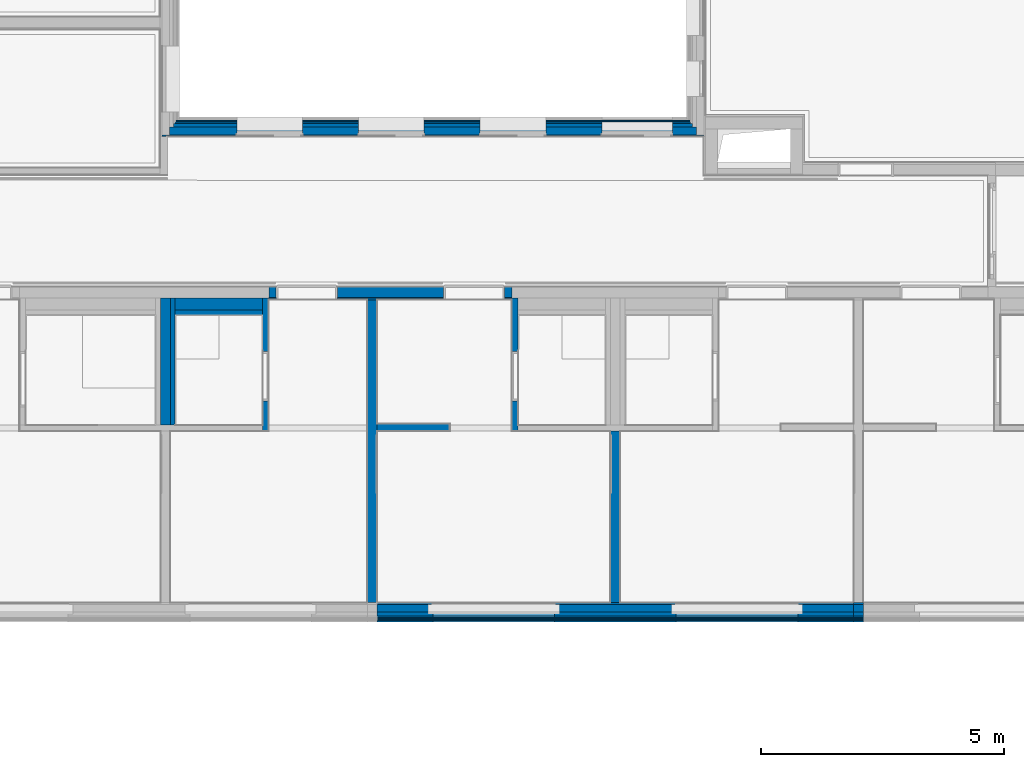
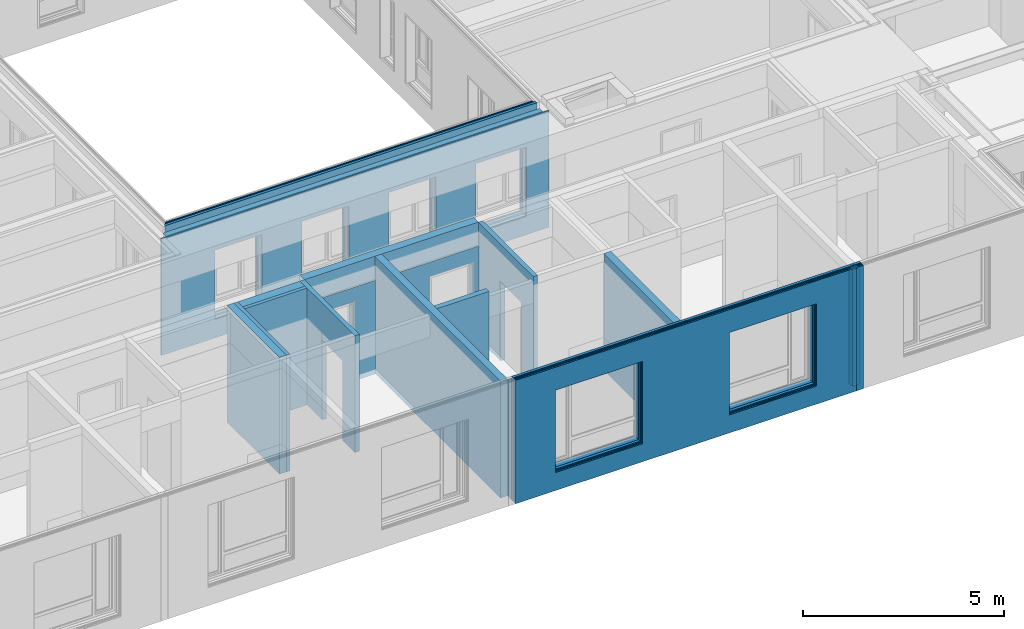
# One storey, part 12 of 222: 30 walls, 40 openings.
"""IFC4 building model written with IfcOpenShell, lengths in metres."""

import ifcopenshell
import ifcopenshell.guid

model = None  # the IFC model being written
_history = None  # IfcOwnerHistory: only IFC2X3 demands one
_inside = {}  # id of a spatial element -> (the spatial element, [elements in it])
_under = {}  # id of a project, library or spatial element -> (it, [spatial elements below it])
_declared = {}  # id of a project -> (the project, [libraries it declares])
_typed = {}  # id of a type object -> (the type object, [elements of that type])
_made_of = {}  # id of a material, layer set ... -> (it, [elements and type objects made of it])


def new_model(schema):
    """Start an empty IFC model of exactly this schema.

    Asked for "IFC4X3", IfcOpenShell would pick the latest addendum, in which some entities
    have other attributes; the version numbers below select the first issue.
    IFC2X3 requires an IfcOwnerHistory on every rooted entity: one is made here for all.
    """
    global model, _history
    if schema == "IFC4X3":
        model = ifcopenshell.file(schema_version=(4, 3, 0, 0))
    else:
        model = ifcopenshell.file(schema=schema)
    _inside.clear()
    _under.clear()
    _declared.clear()
    _typed.clear()
    _made_of.clear()
    _history = None
    if model.schema == "IFC2X3":
        org = make("IfcOrganization", Name="unknown")
        user = make(
            "IfcPersonAndOrganization",
            ThePerson=make("IfcPerson", FamilyName="unknown"),
            TheOrganization=org,
        )
        app = make(
            "IfcApplication",
            ApplicationDeveloper=org,
            Version="unknown",
            ApplicationFullName="unknown",
            ApplicationIdentifier="unknown",
        )
        _history = make(
            "IfcOwnerHistory",
            OwningUser=user,
            OwningApplication=app,
            ChangeAction="ADDED",
            CreationDate=0,
        )
    return model


def make(cls, **values):
    """One entity of the class cls with the attributes given. An attribute that is None is left unset."""
    return model.create_entity(
        cls, **{name: value for name, value in values.items() if value is not None}
    )


def entity(cls, *values):
    """Any entity or typed value of the class cls, its attributes in the order of the schema. None: left unset."""
    e = model.create_entity(cls)
    for i, value in enumerate(values):
        if value is not None:
            e[i] = value
    return e


def rooted(cls, **values):
    """An entity with a GlobalId (a new one), such as an element, a storey or a relation."""
    return make(cls, GlobalId=ifcopenshell.guid.new(), OwnerHistory=_history, **values)


def si_unit(unit_type, name, prefix=None):
    """IfcSIUnit, for example si_unit("LENGTHUNIT", "METRE", prefix="MILLI")."""
    return make("IfcSIUnit", UnitType=unit_type, Prefix=prefix, Name=name)


def converted_unit(unit_type, name, factor, base, dimensions=None, offset=None):
    """IfcConversionBasedUnit, such as the inch: factor (a typed value) times the base unit."""
    return make(
        "IfcConversionBasedUnit"
        if offset is None
        else "IfcConversionBasedUnitWithOffset",
        ConversionOffset=offset,
        Dimensions=None
        if dimensions is None
        else entity("IfcDimensionalExponents", *dimensions),
        UnitType=unit_type,
        Name=name,
        ConversionFactor=make(
            "IfcMeasureWithUnit", ValueComponent=factor, UnitComponent=base
        ),
    )


def derived_unit(unit_type, elements):
    """IfcDerivedUnit: a product of units, each with its exponent."""
    return make(
        "IfcDerivedUnit",
        Elements=[
            make("IfcDerivedUnitElement", Unit=unit, Exponent=power)
            for unit, power in elements
        ],
        UnitType=unit_type,
    )


def assignment(units):
    """IfcUnitAssignment: the units of a project."""
    return None if units is None else make("IfcUnitAssignment", Units=units)


def point(xyz):
    """IfcCartesianPoint."""
    return None if xyz is None else make("IfcCartesianPoint", Coordinates=xyz)


def direction(xyz):
    """IfcDirection."""
    return None if xyz is None else make("IfcDirection", DirectionRatios=xyz)


def frame(location, z_axis=None, x_axis=None):
    """IfcAxis2Placement3D, a coordinate frame: its origin and axes. An axis left out is left unset."""
    return make(
        "IfcAxis2Placement3D",
        Location=point(location),
        Axis=direction(z_axis),
        RefDirection=direction(x_axis),
    )


def frame_2d(location, x_axis=None):
    """IfcAxis2Placement2D, a coordinate frame in the plane: its origin and x axis."""
    return make(
        "IfcAxis2Placement2D", Location=point(location), RefDirection=direction(x_axis)
    )


def origin():
    """The frame at (0, 0, 0) with its axes left unset."""
    return frame((0.0, 0.0, 0.0))


def origin_with_axes():
    """The frame at (0, 0, 0) with the z axis (0, 0, 1) and the x axis (1, 0, 0) written out."""
    return frame((0.0, 0.0, 0.0), z_axis=(0.0, 0.0, 1.0), x_axis=(1.0, 0.0, 0.0))


def place(relative_to, where):
    """IfcLocalPlacement: puts the frame where relative to a parent placement (None: the world)."""
    return make(
        "IfcLocalPlacement", PlacementRelTo=relative_to, RelativePlacement=where
    )


def context(
    kind, dimensions, precision=None, world=None, true_north=None, identifier=None
):
    """IfcGeometricRepresentationContext, for example the 3D "Model" context."""
    return make(
        "IfcGeometricRepresentationContext",
        ContextIdentifier=identifier,
        ContextType=kind,
        CoordinateSpaceDimension=dimensions,
        Precision=precision,
        WorldCoordinateSystem=world,
        TrueNorth=true_north,
    )


def subcontext(parent, identifier, kind, view, scale=None):
    """IfcGeometricRepresentationSubContext, for example "Body" below "Model"."""
    return make(
        "IfcGeometricRepresentationSubContext",
        ContextIdentifier=identifier,
        ContextType=kind,
        ParentContext=parent,
        TargetScale=scale,
        TargetView=view,
    )


def project(units=None, contexts=None):
    """IfcProject with its units and contexts."""
    return rooted(
        "IfcProject",
        Name="project",
        RepresentationContexts=contexts,
        UnitsInContext=assignment(units),
    )


def spatial(cls, under=None, at=None, **own):
    """A site, building, storey or space (cls), placed at a placement, below another one or the project."""
    s = rooted(cls, ObjectPlacement=at, **own)
    if under is not None:
        _under.setdefault(under.id(), (under, []))[1].append(s)
    return s


def polyline(points):
    """IfcPolyline through the points."""
    return make("IfcPolyline", Points=[point(p) for p in points])


def profile(cls, at=None, kind="AREA", **sizes):
    """A parametric profile (cls). Its sizes go by their IFC names, for example OverallWidth=200.0."""
    return make(cls, ProfileType=kind, Position=at, **sizes)


def rectangle(**sizes):
    """IfcRectangleProfileDef."""
    return profile("IfcRectangleProfileDef", **sizes)


def outline(outer, holes=None, kind="AREA"):
    """IfcArbitraryClosedProfileDef: a profile drawn as a closed curve; with holes, ...WithVoids."""
    if holes is None:
        return make("IfcArbitraryClosedProfileDef", ProfileType=kind, OuterCurve=outer)
    return make(
        "IfcArbitraryProfileDefWithVoids",
        ProfileType=kind,
        OuterCurve=outer,
        InnerCurves=holes,
    )


def extrude(swept, where, along, depth):
    """IfcExtrudedAreaSolid: the profile swept, set in the frame where, extruded along a direction by depth."""
    return make(
        "IfcExtrudedAreaSolid",
        SweptArea=swept,
        Position=where,
        ExtrudedDirection=direction(along),
        Depth=depth,
    )


def clip(a, b, op="DIFFERENCE"):
    """IfcBooleanClippingResult: the solid a cut by the half space b."""
    return make(
        "IfcBooleanClippingResult", Operator=op, FirstOperand=a, SecondOperand=b
    )


def bounded_halfspace(plane, agree, where, boundary):
    """IfcPolygonalBoundedHalfSpace: a half space limited to a polygon's prism."""
    return make(
        "IfcPolygonalBoundedHalfSpace",
        BaseSurface=make("IfcPlane", Position=plane),
        AgreementFlag=agree,
        Position=where,
        PolygonalBoundary=boundary,
    )


def shape(context_of_items, identifier, shape_type, items):
    """IfcShapeRepresentation: the items that make up one representation, for example the "Body"."""
    return make(
        "IfcShapeRepresentation",
        ContextOfItems=context_of_items,
        RepresentationIdentifier=identifier,
        RepresentationType=shape_type,
        Items=items,
    )


def material(Name=None, Category=None):
    """IfcMaterial."""
    return make("IfcMaterial", Name=Name, Category=Category)


def made_of(thing, what):
    """Note that an element or type object is made of a material, layer set ...; save() writes the relation."""
    if what is not None:
        _made_of.setdefault(what.id(), (what, []))[1].append(thing)
    return thing


def element(
    cls,
    number,
    at=None,
    inside=None,
    cuts=None,
    type_object=None,
    material=None,
    context=None,
    identifier="Body",
    shape_type=None,
    held_by="IfcProductDefinitionShape",
    body=None,
    shapes=None,
    **own,
):
    """One element of the class cls, such as IfcWall. Its Tag is "e" and its number.

    at: its placement. inside: the storey or other place that contains it. cuts: it is an
    opening in that element (IfcRelVoidsElement). A single representation is given by context,
    identifier, shape_type and body (its items); several are given by shapes. held_by: the class
    of the entity that holds the representations. save() writes the other relations.
    """
    e = rooted(cls, Tag="e%d" % number, ObjectPlacement=at, **own)
    if body is not None:
        shapes = [shape(context, identifier, shape_type, body)]
    if shapes is not None:
        e.Representation = make(held_by, Representations=shapes)
    if inside is not None:
        _inside.setdefault(inside.id(), (inside, []))[1].append(e)
    if cuts is not None:
        rooted(
            "IfcRelVoidsElement", RelatingBuildingElement=cuts, RelatedOpeningElement=e
        )
    if type_object is not None:
        _typed.setdefault(type_object.id(), (type_object, []))[1].append(e)
    return made_of(e, material)


def aggregate(whole, parts):
    """IfcRelAggregates: a whole, such as a stair, and the parts it consists of."""
    return rooted("IfcRelAggregates", RelatingObject=whole, RelatedObjects=parts)


def save(model, path):
    """Write the relations noted so far, then the file.

    IfcRelAggregates (storeys below a building ...), IfcRelContainedInSpatialStructure (elements
    in a storey), IfcRelDefinesByType, IfcRelAssociatesMaterial and IfcRelDeclares: one each for
    every whole, place, type object, material and project.
    """
    for whole, parts in _under.values():
        aggregate(whole, parts)
    for where, things in _inside.values():
        rooted(
            "IfcRelContainedInSpatialStructure",
            RelatedElements=things,
            RelatingStructure=where,
        )
    for kind, things in _typed.values():
        rooted("IfcRelDefinesByType", RelatedObjects=things, RelatingType=kind)
    for what, things in _made_of.values():
        rooted("IfcRelAssociatesMaterial", RelatedObjects=things, RelatingMaterial=what)
    for by, libraries in _declared.values():
        rooted("IfcRelDeclares", RelatingContext=by, RelatedDefinitions=libraries)
    model.write(path)


model = new_model("IFC4")

# Units and contexts
model_context = context("Model", 3, precision=1e-05, world=origin())
body_context = subcontext(model_context, "Body", "Model", "MODEL_VIEW")
ifc_project = project(units=[si_unit("LENGTHUNIT", "METRE"), si_unit("AREAUNIT", "SQUARE_METRE"), si_unit("VOLUMEUNIT", "CUBIC_METRE"), si_unit("MASSUNIT", "GRAM", prefix="KILO"), converted_unit("PLANEANGLEUNIT", "DEGREE", entity("IfcPlaneAngleMeasure", 0.0174532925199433), si_unit("PLANEANGLEUNIT", "RADIAN"), dimensions=[0, 0, 0, 0, 0, 0, 0]), derived_unit("THERMALTRANSMITTANCEUNIT", [(si_unit("POWERUNIT", "WATT"), 1), (si_unit("THERMODYNAMICTEMPERATUREUNIT", "KELVIN"), -1), (si_unit("LENGTHUNIT", "METRE"), -2)]), derived_unit("VOLUMETRICFLOWRATEUNIT", [(si_unit("LENGTHUNIT", "METRE"), 3), (converted_unit("TIMEUNIT", "hour", entity("IfcTimeMeasure", 3600.0), si_unit("TIMEUNIT", "SECOND"), dimensions=[0, 0, 1, 0, 0, 0, 0]), -1), (si_unit("LENGTHUNIT", "METRE"), -1)])], contexts=[model_context])

# Site, building, storey
site_placement = place(None, origin())
site = spatial("IfcSite", under=ifc_project, at=site_placement, Name="Psychiatrie Neubau Wunstorf", CompositionType="ELEMENT")
building_placement = place(site_placement, origin())
building = spatial("IfcBuilding", under=site, at=building_placement, Name="Neubau H2 Stationsgebäude", CompositionType="ELEMENT")
storey_placement = place(building_placement, frame((0.0, 0.0, 3.6)))
storey = spatial("IfcBuildingStorey", under=building, at=storey_placement, Name="H2 Ebene +1", CompositionType="ELEMENT", Elevation=3.6)

# Wall, openings
ifc_material_1 = material(Name="WA-LB")
wall_1_placement = place(storey_placement, frame((29.9, -2.16399999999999, 0.0), z_axis=(0.0, 0.0, 1.0), x_axis=(-1.0, 1.39208372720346e-16, 0.0)))
wall_1 = element("IfcWall", 1, at=wall_1_placement, inside=storey, material=ifc_material_1, context=body_context, shape_type="SweptSolid", body=[
    extrude(rectangle(XDim=9.8, YDim=0.036, at=frame_2d((4.9, 0.018), x_axis=(1.0, 0.0))), origin_with_axes(), (0.0, 0.0, 1.0), 3.55),
])
opening_1_placement = place(wall_1_placement, frame((6.15, 0.0, 0.55), z_axis=(0.0, 1.0, 0.0), x_axis=(0.0, 0.0, 1.0)))
element("IfcOpeningElement", 2, at=opening_1_placement, cuts=wall_1, Name="Fensteröffnung", ObjectType="Opening", context=body_context, shape_type="SweptSolid", body=[
    extrude(outline(polyline([(2.5, 2.5), (2.5, 0.0), (0.0, 0.0), (0.0, 2.5), (2.5, 2.5)])), origin_with_axes(), (0.0, 0.0, 1.0), 0.036),
])
opening_2_placement = place(wall_1_placement, frame((1.15, 0.0, 0.55), z_axis=(0.0, 1.0, 0.0), x_axis=(0.0, 0.0, 1.0)))
element("IfcOpeningElement", 3, at=opening_2_placement, cuts=wall_1, Name="Fensteröffnung", ObjectType="Opening", context=body_context, shape_type="SweptSolid", body=[
    extrude(outline(polyline([(2.5, 2.5), (2.5, 0.0), (0.0, 0.0), (0.0, 2.5), (2.5, 2.5)])), origin_with_axes(), (0.0, 0.0, 1.0), 0.036),
])

ifc_material_2 = material(Name="WA-HD")
wall_2_placement = place(storey_placement, frame((29.9, -2.19999999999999, 0.0), z_axis=(0.0, 0.0, 1.0), x_axis=(-1.0, 1.39208372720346e-16, 0.0)))
wall_2 = element("IfcWall", 4, at=wall_2_placement, inside=storey, material=ifc_material_2, context=body_context, shape_type="Clipping", body=[
    clip(clip(extrude(rectangle(XDim=9.8, YDim=0.16, at=frame_2d((4.9, 0.08), x_axis=(1.0, 0.0))), origin_with_axes(), (0.0, 0.0, 1.0), 3.55), bounded_halfspace(frame((7.40000001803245, 0.0800000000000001, 0.26), z_axis=(0.0, 0.0, 1.0), x_axis=(1.0, -2.9216569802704e-17, 0.0)), True, origin_with_axes(), polyline([(6.05, 0.0), (8.7500000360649, 0.0), (8.7500000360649, 0.16), (6.05, 0.16), (6.05, 0.0)]))), bounded_halfspace(frame((2.40000001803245, 0.0799999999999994, 0.26), z_axis=(0.0, 0.0, 1.0), x_axis=(1.0, -2.9216569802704e-17, 0.0)), True, origin_with_axes(), polyline([(1.05, 0.0), (3.7500000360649, 0.0), (3.7500000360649, 0.16), (1.05, 0.16), (1.05, 0.0)]))),
])
opening_3_placement = place(wall_2_placement, frame((1.15, 0.0, 0.55), z_axis=(0.0, 1.0, 0.0), x_axis=(0.0, 0.0, 1.0)))
element("IfcOpeningElement", 5, at=opening_3_placement, cuts=wall_2, Name="Fensteröffnung", ObjectType="Opening", context=body_context, shape_type="SweptSolid", body=[
    extrude(outline(polyline([(2.5, 2.5), (2.5, 0.0), (0.0, 0.0), (0.0, 2.5), (2.5, 2.5)])), origin_with_axes(), (0.0, 0.0, 1.0), 0.16),
])
opening_4_placement = place(wall_2_placement, frame((6.15, 0.0, 0.55), z_axis=(0.0, 1.0, 0.0), x_axis=(0.0, 0.0, 1.0)))
element("IfcOpeningElement", 6, at=opening_4_placement, cuts=wall_2, Name="Fensteröffnung", ObjectType="Opening", context=body_context, shape_type="SweptSolid", body=[
    extrude(outline(polyline([(2.5, 2.5), (2.5, 0.0), (0.0, 0.0), (0.0, 2.5), (2.5, 2.5)])), origin_with_axes(), (0.0, 0.0, 1.0), 0.16),
])

ifc_material_3 = material(Name="WA-DL")
wall_3_placement = place(storey_placement, frame((29.9, -2.35999999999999, 0.0), z_axis=(0.0, 0.0, 1.0), x_axis=(-1.0, 1.39208372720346e-16, 0.0)))
wall_3 = element("IfcWall", 7, at=wall_3_placement, inside=storey, material=ifc_material_3, context=body_context, shape_type="SweptSolid", body=[
    extrude(rectangle(XDim=9.8, YDim=0.08, at=frame_2d((4.9, 0.04), x_axis=(1.0, 0.0))), origin_with_axes(), (0.0, 0.0, 1.0), 3.75),
])
opening_5_placement = place(wall_3_placement, frame((1.15, 0.0, 0.55), z_axis=(0.0, 1.0, 0.0), x_axis=(0.0, 0.0, 1.0)))
element("IfcOpeningElement", 8, at=opening_5_placement, cuts=wall_3, Name="Fensteröffnung", ObjectType="Opening", context=body_context, shape_type="SweptSolid", body=[
    extrude(outline(polyline([(2.5, 2.5), (2.5, 0.0), (0.0, 0.0), (0.0, 2.5), (2.5, 2.5)])), origin_with_axes(), (0.0, 0.0, 1.0), 0.08),
])
opening_6_placement = place(wall_3_placement, frame((6.15, 0.0, 0.55), z_axis=(0.0, 1.0, 0.0), x_axis=(0.0, 0.0, 1.0)))
element("IfcOpeningElement", 9, at=opening_6_placement, cuts=wall_3, Name="Fensteröffnung", ObjectType="Opening", context=body_context, shape_type="SweptSolid", body=[
    extrude(outline(polyline([(2.5, 2.5), (2.5, 0.0), (0.0, 0.0), (0.0, 2.5), (2.5, 2.5)])), origin_with_axes(), (0.0, 0.0, 1.0), 0.08),
])

ifc_material_4 = material(Name="WA-LB")
wall_4_placement = place(storey_placement, frame((29.9, -2.43999999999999, 0.0), z_axis=(0.0, 0.0, 1.0), x_axis=(-1.0, 1.39208372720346e-16, 0.0)))
wall_4 = element("IfcWall", 10, at=wall_4_placement, inside=storey, material=ifc_material_4, context=body_context, shape_type="SweptSolid", body=[
    extrude(rectangle(XDim=9.8, YDim=0.036, at=frame_2d((4.9, 0.018), x_axis=(1.0, 0.0))), origin_with_axes(), (0.0, 0.0, 1.0), 3.75),
])
opening_7_placement = place(wall_4_placement, frame((6.15, 0.0, 0.55), z_axis=(0.0, 1.0, 0.0), x_axis=(0.0, 0.0, 1.0)))
element("IfcOpeningElement", 11, at=opening_7_placement, cuts=wall_4, Name="Fensteröffnung", ObjectType="Opening", context=body_context, shape_type="SweptSolid", body=[
    extrude(outline(polyline([(2.5, 2.5), (2.5, 0.0), (0.0, 0.0), (0.0, 2.5), (2.5, 2.5)])), origin_with_axes(), (0.0, 0.0, 1.0), 0.036),
])
opening_8_placement = place(wall_4_placement, frame((1.15, 0.0, 0.55), z_axis=(0.0, 1.0, 0.0), x_axis=(0.0, 0.0, 1.0)))
element("IfcOpeningElement", 12, at=opening_8_placement, cuts=wall_4, Name="Fensteröffnung", ObjectType="Opening", context=body_context, shape_type="SweptSolid", body=[
    extrude(outline(polyline([(2.5, 2.5), (2.5, 0.0), (0.0, 0.0), (0.0, 2.5), (2.5, 2.5)])), origin_with_axes(), (0.0, 0.0, 1.0), 0.036),
])

ifc_material_5 = material(Name="WA-KL")
wall_5_placement = place(storey_placement, frame((29.9, -2.47599999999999, 0.0), z_axis=(0.0, 0.0, 1.0), x_axis=(-1.0, 1.39208372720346e-16, 0.0)))
wall_5 = element("IfcWall", 13, at=wall_5_placement, inside=storey, material=ifc_material_5, context=body_context, shape_type="SweptSolid", body=[
    extrude(rectangle(XDim=9.8, YDim=0.024, at=frame_2d((4.9, 0.012), x_axis=(1.0, 0.0))), origin_with_axes(), (0.0, 0.0, 1.0), 3.75),
])
opening_9_placement = place(wall_5_placement, frame((1.15, 0.0, 0.55), z_axis=(0.0, 1.0, 0.0), x_axis=(0.0, 0.0, 1.0)))
element("IfcOpeningElement", 14, at=opening_9_placement, cuts=wall_5, Name="Fensteröffnung", ObjectType="Opening", context=body_context, shape_type="SweptSolid", body=[
    extrude(outline(polyline([(2.5, 2.5), (2.5, 0.0), (0.0, 0.0), (0.0, 2.5), (2.5, 2.5)])), origin_with_axes(), (0.0, 0.0, 1.0), 0.024),
])
opening_10_placement = place(wall_5_placement, frame((6.15, 0.0, 0.55), z_axis=(0.0, 1.0, 0.0), x_axis=(0.0, 0.0, 1.0)))
element("IfcOpeningElement", 15, at=opening_10_placement, cuts=wall_5, Name="Fensteröffnung", ObjectType="Opening", context=body_context, shape_type="SweptSolid", body=[
    extrude(outline(polyline([(2.5, 2.5), (2.5, 0.0), (0.0, 0.0), (0.0, 2.5), (2.5, 2.5)])), origin_with_axes(), (0.0, 0.0, 1.0), 0.024),
])

ifc_material_6 = material(Name="WA-TL")
wall_6_placement = place(storey_placement, frame((29.9, -2.49999999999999, 0.0), z_axis=(0.0, 0.0, 1.0), x_axis=(-1.0, 1.39208372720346e-16, 0.0)))
wall_6 = element("IfcWall", 16, at=wall_6_placement, inside=storey, material=ifc_material_6, context=body_context, shape_type="SweptSolid", body=[
    extrude(rectangle(XDim=9.8, YDim=0.024, at=frame_2d((4.9, 0.012), x_axis=(1.0, 0.0))), origin_with_axes(), (0.0, 0.0, 1.0), 3.75),
])
opening_11_placement = place(wall_6_placement, frame((1.15, 0.0, 0.55), z_axis=(0.0, 1.0, 0.0), x_axis=(0.0, 0.0, 1.0)))
element("IfcOpeningElement", 17, at=opening_11_placement, cuts=wall_6, Name="Fensteröffnung", ObjectType="Opening", context=body_context, shape_type="SweptSolid", body=[
    extrude(outline(polyline([(2.5, 2.5), (2.5, 0.0), (0.0, 0.0), (0.0, 2.5), (2.5, 2.5)])), origin_with_axes(), (0.0, 0.0, 1.0), 0.024),
])
opening_12_placement = place(wall_6_placement, frame((6.15, 0.0, 0.55), z_axis=(0.0, 1.0, 0.0), x_axis=(0.0, 0.0, 1.0)))
element("IfcOpeningElement", 18, at=opening_12_placement, cuts=wall_6, Name="Fensteröffnung", ObjectType="Opening", context=body_context, shape_type="SweptSolid", body=[
    extrude(outline(polyline([(2.5, 2.5), (2.5, 0.0), (0.0, 0.0), (0.0, 2.5), (2.5, 2.5)])), origin_with_axes(), (0.0, 0.0, 1.0), 0.024),
])

ifc_material_7 = material(Name="WA-HS")
wall_7_placement = place(storey_placement, frame((29.9, -2.52399999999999, 0.0), z_axis=(0.0, 0.0, 1.0), x_axis=(-1.0, 1.39208372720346e-16, 0.0)))
wall_7 = element("IfcWall", 19, at=wall_7_placement, inside=storey, material=ifc_material_7, context=body_context, shape_type="SweptSolid", body=[
    extrude(rectangle(XDim=9.8, YDim=0.042, at=frame_2d((4.9, 0.021), x_axis=(1.0, 0.0))), origin_with_axes(), (0.0, 0.0, 1.0), 3.75),
])
opening_13_placement = place(wall_7_placement, frame((1.15, 0.0, 0.55), z_axis=(0.0, 1.0, 0.0), x_axis=(0.0, 0.0, 1.0)))
element("IfcOpeningElement", 20, at=opening_13_placement, cuts=wall_7, Name="Fensteröffnung", ObjectType="Opening", context=body_context, shape_type="SweptSolid", body=[
    extrude(outline(polyline([(2.5, 2.5), (2.5, 0.0), (0.0, 0.0), (0.0, 2.5), (2.5, 2.5)])), origin_with_axes(), (0.0, 0.0, 1.0), 0.042),
])
opening_14_placement = place(wall_7_placement, frame((6.15, 0.0, 0.55), z_axis=(0.0, 1.0, 0.0), x_axis=(0.0, 0.0, 1.0)))
element("IfcOpeningElement", 21, at=opening_14_placement, cuts=wall_7, Name="Fensteröffnung", ObjectType="Opening", context=body_context, shape_type="SweptSolid", body=[
    extrude(outline(polyline([(2.5, 2.5), (2.5, 0.0), (0.0, 0.0), (0.0, 2.5), (2.5, 2.5)])), origin_with_axes(), (0.0, 0.0, 1.0), 0.042),
])

# Walls
ifc_material_8 = material(Name="WA-LB")
wall_8_placement = place(storey_placement, frame((30.1, -2.16399999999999, 0.0), z_axis=(0.0, 0.0, 1.0), x_axis=(-1.0, 0.0, 0.0)))
element("IfcWall", 22, at=wall_8_placement, inside=storey, material=ifc_material_8, Name="2x Gipsfaserplatte", context=body_context, shape_type="SweptSolid", body=[
    extrude(rectangle(XDim=0.2, YDim=0.036, at=frame_2d((0.1, 0.018), x_axis=(1.0, 0.0))), origin_with_axes(), (0.0, 0.0, 1.0), 3.55),
])
ifc_material_9 = material(Name="WA-HD")
wall_9_placement = place(storey_placement, frame((30.1, -2.19999999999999, 0.0), z_axis=(0.0, 0.0, 1.0), x_axis=(-1.0, 0.0, 0.0)))
element("IfcWall", 23, at=wall_9_placement, inside=storey, material=ifc_material_9, Name="Holzständer + Zwischendämmung", context=body_context, shape_type="SweptSolid", body=[
    extrude(rectangle(XDim=0.2, YDim=0.16, at=frame_2d((0.1, 0.08), x_axis=(1.0, 0.0))), origin_with_axes(), (0.0, 0.0, 1.0), 3.55),
])
ifc_material_10 = material(Name="WA-DL")
wall_10_placement = place(storey_placement, frame((30.1, -2.35999999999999, 0.0), z_axis=(0.0, 0.0, 1.0), x_axis=(-1.0, 0.0, 0.0)))
element("IfcWall", 24, at=wall_10_placement, inside=storey, material=ifc_material_10, Name="Staffel + Zwischendämmung", context=body_context, shape_type="SweptSolid", body=[
    extrude(rectangle(XDim=0.2, YDim=0.08, at=frame_2d((0.1, 0.04), x_axis=(1.0, 0.0))), origin_with_axes(), (0.0, 0.0, 1.0), 3.75),
])
ifc_material_11 = material(Name="WA-LB")
wall_11_placement = place(storey_placement, frame((30.1, -2.43999999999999, 0.0), z_axis=(0.0, 0.0, 1.0), x_axis=(-1.0, 0.0, 0.0)))
element("IfcWall", 25, at=wall_11_placement, inside=storey, material=ifc_material_11, context=body_context, shape_type="SweptSolid", body=[
    extrude(rectangle(XDim=0.2, YDim=0.036, at=frame_2d((0.1, 0.018), x_axis=(1.0, 0.0))), origin_with_axes(), (0.0, 0.0, 1.0), 3.75),
])
ifc_material_12 = material(Name="WA-KL")
wall_12_placement = place(storey_placement, frame((30.1, -2.47599999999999, 0.0), z_axis=(0.0, 0.0, 1.0), x_axis=(-1.0, 0.0, 0.0)))
element("IfcWall", 26, at=wall_12_placement, inside=storey, material=ifc_material_12, Name="Konterlattung", context=body_context, shape_type="SweptSolid", body=[
    extrude(rectangle(XDim=0.2, YDim=0.024, at=frame_2d((0.1, 0.012), x_axis=(1.0, 0.0))), origin_with_axes(), (0.0, 0.0, 1.0), 3.75),
])
ifc_material_13 = material(Name="WA-TL")
wall_13_placement = place(storey_placement, frame((30.1, -2.49999999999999, 0.0), z_axis=(0.0, 0.0, 1.0), x_axis=(-1.0, 0.0, 0.0)))
element("IfcWall", 27, at=wall_13_placement, inside=storey, material=ifc_material_13, Name="Traglattung", context=body_context, shape_type="SweptSolid", body=[
    extrude(rectangle(XDim=0.2, YDim=0.024, at=frame_2d((0.1, 0.012), x_axis=(1.0, 0.0))), origin_with_axes(), (0.0, 0.0, 1.0), 3.75),
])
ifc_material_14 = material(Name="WA-HS")
wall_14_placement = place(storey_placement, frame((30.1, -2.52399999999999, 0.0), z_axis=(0.0, 0.0, 1.0), x_axis=(-1.0, 0.0, 0.0)))
element("IfcWall", 28, at=wall_14_placement, inside=storey, material=ifc_material_14, Name="Holzschindel", context=body_context, shape_type="SweptSolid", body=[
    extrude(rectangle(XDim=0.2, YDim=0.042, at=frame_2d((0.1, 0.021), x_axis=(1.0, 0.0))), origin_with_axes(), (0.0, 0.0, 1.0), 3.75),
])

# Wall, openings
ifc_material_15 = material(Name="WA-LB")
wall_15_placement = place(storey_placement, frame((15.675, 7.414, 0.0)))
wall_15 = element("IfcWall", 29, at=wall_15_placement, inside=storey, material=ifc_material_15, context=body_context, shape_type="SweptSolid", body=[
    extrude(rectangle(XDim=11.15, YDim=0.0360000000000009, at=frame_2d((5.57499999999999, 0.0180000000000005), x_axis=(1.0, 0.0))), origin_with_axes(), (0.0, 0.0, 1.0), 3.55),
])
opening_15_placement = place(wall_15_placement, frame((10.4951686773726, 0.0359999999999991, 0.55), z_axis=(0.0, -1.0, 0.0), x_axis=(0.0, 0.0, 1.0)))
element("IfcOpeningElement", 30, at=opening_15_placement, cuts=wall_15, Name="Fensteröffnung", ObjectType="Opening", context=body_context, shape_type="SweptSolid", body=[
    extrude(outline(polyline([(2.115, 1.45), (2.115, 0.0), (0.0, 0.0), (0.0, 1.45), (2.115, 1.45)])), origin_with_axes(), (0.0, 0.0, 1.0), 0.0360000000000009),
])
opening_16_placement = place(wall_15_placement, frame((7.89525366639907, 0.0360000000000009, 0.55), z_axis=(0.0, -1.0, 0.0), x_axis=(0.0, 0.0, 1.0)))
element("IfcOpeningElement", 31, at=opening_16_placement, cuts=wall_15, Name="Fensteröffnung", ObjectType="Opening", context=body_context, shape_type="SweptSolid", body=[
    extrude(outline(polyline([(2.115, 1.35), (2.115, 0.0), (0.0, 0.0), (0.0, 1.35), (2.115, 1.35)])), origin_with_axes(), (0.0, 0.0, 1.0), 0.0360000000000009),
])
opening_17_placement = place(wall_15_placement, frame((5.39525366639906, 0.0360000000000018, 0.55), z_axis=(0.0, -1.0, 0.0), x_axis=(0.0, 0.0, 1.0)))
element("IfcOpeningElement", 32, at=opening_17_placement, cuts=wall_15, Name="Fensteröffnung", ObjectType="Opening", context=body_context, shape_type="SweptSolid", body=[
    extrude(outline(polyline([(2.115, 1.35), (2.115, 0.0), (0.0, 0.0), (0.0, 1.35), (2.115, 1.35)])), origin_with_axes(), (0.0, 0.0, 1.0), 0.0360000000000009),
])
opening_18_placement = place(wall_15_placement, frame((2.8952536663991, 0.0360000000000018, 0.55), z_axis=(0.0, -1.0, 0.0), x_axis=(0.0, 0.0, 1.0)))
element("IfcOpeningElement", 33, at=opening_18_placement, cuts=wall_15, Name="Fensteröffnung", ObjectType="Opening", context=body_context, shape_type="SweptSolid", body=[
    extrude(outline(polyline([(2.115, 1.35), (2.115, 0.0), (0.0, 0.0), (0.0, 1.35), (2.115, 1.35)])), origin_with_axes(), (0.0, 0.0, 1.0), 0.0360000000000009),
])

ifc_material_16 = material(Name="WA-DL")
wall_16_placement = place(storey_placement, frame((15.835, 7.45, 0.0)))
wall_16 = element("IfcWall", 34, at=wall_16_placement, inside=storey, material=ifc_material_16, context=body_context, shape_type="SweptSolid", body=[
    extrude(rectangle(XDim=10.83, YDim=0.160000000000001, at=frame_2d((5.41499999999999, 0.0800000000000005), x_axis=(1.0, 0.0))), origin_with_axes(), (0.0, 0.0, 1.0), 3.55),
])
opening_19_placement = place(wall_16_placement, frame((10.3351686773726, 0.159999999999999, 0.55), z_axis=(0.0, -1.0, 0.0), x_axis=(0.0, 0.0, 1.0)))
element("IfcOpeningElement", 35, at=opening_19_placement, cuts=wall_16, Name="Fensteröffnung", ObjectType="Opening", context=body_context, shape_type="SweptSolid", body=[
    extrude(outline(polyline([(2.115, 1.45), (2.115, 0.0), (0.0, 0.0), (0.0, 1.45), (2.115, 1.45)])), origin_with_axes(), (0.0, 0.0, 1.0), 0.160000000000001),
])
opening_20_placement = place(wall_16_placement, frame((7.73525366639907, 0.160000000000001, 0.55), z_axis=(0.0, -1.0, 0.0), x_axis=(0.0, 0.0, 1.0)))
element("IfcOpeningElement", 36, at=opening_20_placement, cuts=wall_16, Name="Fensteröffnung", ObjectType="Opening", context=body_context, shape_type="SweptSolid", body=[
    extrude(outline(polyline([(2.115, 1.35), (2.115, 0.0), (0.0, 0.0), (0.0, 1.35), (2.115, 1.35)])), origin_with_axes(), (0.0, 0.0, 1.0), 0.160000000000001),
])
opening_21_placement = place(wall_16_placement, frame((5.23525366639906, 0.160000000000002, 0.55), z_axis=(0.0, -1.0, 0.0), x_axis=(0.0, 0.0, 1.0)))
element("IfcOpeningElement", 37, at=opening_21_placement, cuts=wall_16, Name="Fensteröffnung", ObjectType="Opening", context=body_context, shape_type="SweptSolid", body=[
    extrude(outline(polyline([(2.115, 1.35), (2.115, 0.0), (0.0, 0.0), (0.0, 1.35), (2.115, 1.35)])), origin_with_axes(), (0.0, 0.0, 1.0), 0.160000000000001),
])
opening_22_placement = place(wall_16_placement, frame((2.7352536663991, 0.160000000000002, 0.55), z_axis=(0.0, -1.0, 0.0), x_axis=(0.0, 0.0, 1.0)))
element("IfcOpeningElement", 38, at=opening_22_placement, cuts=wall_16, Name="Fensteröffnung", ObjectType="Opening", context=body_context, shape_type="SweptSolid", body=[
    extrude(outline(polyline([(2.115, 1.35), (2.115, 0.0), (0.0, 0.0), (0.0, 1.35), (2.115, 1.35)])), origin_with_axes(), (0.0, 0.0, 1.0), 0.160000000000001),
])

ifc_material_17 = material(Name="WA-DL")
wall_17_placement = place(storey_placement, frame((15.915, 7.61, 0.0)))
wall_17 = element("IfcWall", 39, at=wall_17_placement, inside=storey, material=ifc_material_17, context=body_context, shape_type="SweptSolid", body=[
    extrude(rectangle(XDim=10.67, YDim=0.08, at=frame_2d((5.33499999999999, 0.04), x_axis=(1.0, 0.0))), origin_with_axes(), (0.0, 0.0, 1.0), 3.75),
])
opening_23_placement = place(wall_17_placement, frame((10.2551686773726, 0.0799999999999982, 0.55), z_axis=(0.0, -1.0, 0.0), x_axis=(0.0, 0.0, 1.0)))
element("IfcOpeningElement", 40, at=opening_23_placement, cuts=wall_17, Name="Fensteröffnung", ObjectType="Opening", context=body_context, shape_type="SweptSolid", body=[
    extrude(outline(polyline([(2.115, 1.45), (2.115, 0.0), (0.0, 0.0), (0.0, 1.45), (2.115, 1.45)])), origin_with_axes(), (0.0, 0.0, 1.0), 0.08),
])
opening_24_placement = place(wall_17_placement, frame((7.65525366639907, 0.08, 0.55), z_axis=(0.0, -1.0, 0.0), x_axis=(0.0, 0.0, 1.0)))
element("IfcOpeningElement", 41, at=opening_24_placement, cuts=wall_17, Name="Fensteröffnung", ObjectType="Opening", context=body_context, shape_type="SweptSolid", body=[
    extrude(outline(polyline([(2.115, 1.35), (2.115, 0.0), (0.0, 0.0), (0.0, 1.35), (2.115, 1.35)])), origin_with_axes(), (0.0, 0.0, 1.0), 0.08),
])
opening_25_placement = place(wall_17_placement, frame((5.15525366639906, 0.0800000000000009, 0.55), z_axis=(0.0, -1.0, 0.0), x_axis=(0.0, 0.0, 1.0)))
element("IfcOpeningElement", 42, at=opening_25_placement, cuts=wall_17, Name="Fensteröffnung", ObjectType="Opening", context=body_context, shape_type="SweptSolid", body=[
    extrude(outline(polyline([(2.115, 1.35), (2.115, 0.0), (0.0, 0.0), (0.0, 1.35), (2.115, 1.35)])), origin_with_axes(), (0.0, 0.0, 1.0), 0.08),
])
opening_26_placement = place(wall_17_placement, frame((2.6552536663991, 0.0800000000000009, 0.55), z_axis=(0.0, -1.0, 0.0), x_axis=(0.0, 0.0, 1.0)))
element("IfcOpeningElement", 43, at=opening_26_placement, cuts=wall_17, Name="Fensteröffnung", ObjectType="Opening", context=body_context, shape_type="SweptSolid", body=[
    extrude(outline(polyline([(2.115, 1.35), (2.115, 0.0), (0.0, 0.0), (0.0, 1.35), (2.115, 1.35)])), origin_with_axes(), (0.0, 0.0, 1.0), 0.08),
])

ifc_material_18 = material(Name="WA-LB")
wall_18_placement = place(storey_placement, frame((15.951, 7.69, 0.0)))
wall_18 = element("IfcWall", 44, at=wall_18_placement, inside=storey, material=ifc_material_18, context=body_context, shape_type="SweptSolid", body=[
    extrude(rectangle(XDim=10.598, YDim=0.036, at=frame_2d((5.29899999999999, 0.018), x_axis=(1.0, 0.0))), origin_with_axes(), (0.0, 0.0, 1.0), 3.75),
])
opening_27_placement = place(wall_18_placement, frame((10.2191686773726, 0.0359999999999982, 0.55), z_axis=(0.0, -1.0, 0.0), x_axis=(0.0, 0.0, 1.0)))
element("IfcOpeningElement", 45, at=opening_27_placement, cuts=wall_18, Name="Fensteröffnung", ObjectType="Opening", context=body_context, shape_type="SweptSolid", body=[
    extrude(outline(polyline([(2.115, 1.45), (2.115, 0.0), (0.0, 0.0), (0.0, 1.45), (2.115, 1.45)])), origin_with_axes(), (0.0, 0.0, 1.0), 0.036),
])
opening_28_placement = place(wall_18_placement, frame((7.61925366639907, 0.036, 0.55), z_axis=(0.0, -1.0, 0.0), x_axis=(0.0, 0.0, 1.0)))
element("IfcOpeningElement", 46, at=opening_28_placement, cuts=wall_18, Name="Fensteröffnung", ObjectType="Opening", context=body_context, shape_type="SweptSolid", body=[
    extrude(outline(polyline([(2.115, 1.35), (2.115, 0.0), (0.0, 0.0), (0.0, 1.35), (2.115, 1.35)])), origin_with_axes(), (0.0, 0.0, 1.0), 0.036),
])
opening_29_placement = place(wall_18_placement, frame((5.11925366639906, 0.0360000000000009, 0.55), z_axis=(0.0, -1.0, 0.0), x_axis=(0.0, 0.0, 1.0)))
element("IfcOpeningElement", 47, at=opening_29_placement, cuts=wall_18, Name="Fensteröffnung", ObjectType="Opening", context=body_context, shape_type="SweptSolid", body=[
    extrude(outline(polyline([(2.115, 1.35), (2.115, 0.0), (0.0, 0.0), (0.0, 1.35), (2.115, 1.35)])), origin_with_axes(), (0.0, 0.0, 1.0), 0.036),
])
opening_30_placement = place(wall_18_placement, frame((2.6192536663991, 0.0360000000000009, 0.55), z_axis=(0.0, -1.0, 0.0), x_axis=(0.0, 0.0, 1.0)))
element("IfcOpeningElement", 48, at=opening_30_placement, cuts=wall_18, Name="Fensteröffnung", ObjectType="Opening", context=body_context, shape_type="SweptSolid", body=[
    extrude(outline(polyline([(2.115, 1.35), (2.115, 0.0), (0.0, 0.0), (0.0, 1.35), (2.115, 1.35)])), origin_with_axes(), (0.0, 0.0, 1.0), 0.036),
])

ifc_material_19 = material(Name="WA-KL")
wall_19_placement = place(storey_placement, frame((15.975, 7.726, 0.0)))
wall_19 = element("IfcWall", 49, at=wall_19_placement, inside=storey, material=ifc_material_19, context=body_context, shape_type="SweptSolid", body=[
    extrude(rectangle(XDim=10.55, YDim=0.024, at=frame_2d((5.27499999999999, 0.012), x_axis=(1.0, 0.0))), origin_with_axes(), (0.0, 0.0, 1.0), 3.75),
])
opening_31_placement = place(wall_19_placement, frame((10.1951686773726, 0.0239999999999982, 0.55), z_axis=(0.0, -1.0, 0.0), x_axis=(0.0, 0.0, 1.0)))
element("IfcOpeningElement", 50, at=opening_31_placement, cuts=wall_19, Name="Fensteröffnung", ObjectType="Opening", context=body_context, shape_type="SweptSolid", body=[
    extrude(outline(polyline([(2.115, 1.45), (2.115, 0.0), (0.0, 0.0), (0.0, 1.45), (2.115, 1.45)])), origin_with_axes(), (0.0, 0.0, 1.0), 0.024),
])
opening_32_placement = place(wall_19_placement, frame((7.59525366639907, 0.024, 0.55), z_axis=(0.0, -1.0, 0.0), x_axis=(0.0, 0.0, 1.0)))
element("IfcOpeningElement", 51, at=opening_32_placement, cuts=wall_19, Name="Fensteröffnung", ObjectType="Opening", context=body_context, shape_type="SweptSolid", body=[
    extrude(outline(polyline([(2.115, 1.35), (2.115, 0.0), (0.0, 0.0), (0.0, 1.35), (2.115, 1.35)])), origin_with_axes(), (0.0, 0.0, 1.0), 0.024),
])
opening_33_placement = place(wall_19_placement, frame((5.09525366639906, 0.0240000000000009, 0.55), z_axis=(0.0, -1.0, 0.0), x_axis=(0.0, 0.0, 1.0)))
element("IfcOpeningElement", 52, at=opening_33_placement, cuts=wall_19, Name="Fensteröffnung", ObjectType="Opening", context=body_context, shape_type="SweptSolid", body=[
    extrude(outline(polyline([(2.115, 1.35), (2.115, 0.0), (0.0, 0.0), (0.0, 1.35), (2.115, 1.35)])), origin_with_axes(), (0.0, 0.0, 1.0), 0.024),
])
opening_34_placement = place(wall_19_placement, frame((2.5952536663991, 0.0240000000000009, 0.55), z_axis=(0.0, -1.0, 0.0), x_axis=(0.0, 0.0, 1.0)))
element("IfcOpeningElement", 53, at=opening_34_placement, cuts=wall_19, Name="Fensteröffnung", ObjectType="Opening", context=body_context, shape_type="SweptSolid", body=[
    extrude(outline(polyline([(2.115, 1.35), (2.115, 0.0), (0.0, 0.0), (0.0, 1.35), (2.115, 1.35)])), origin_with_axes(), (0.0, 0.0, 1.0), 0.024),
])

# Wall, opening
ifc_material_20 = material(Name="WI-LB")
wall_20_placement = place(storey_placement, frame((17.875, 1.35874963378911, 0.0), z_axis=(0.0, 0.0, 1.0), x_axis=(0.0, 1.0, 0.0)))
wall_20 = element("IfcWall", 54, at=wall_20_placement, inside=storey, material=ifc_material_20, context=body_context, shape_type="SweptSolid", body=[
    extrude(rectangle(XDim=2.73999999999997, YDim=0.125, at=frame_2d((1.36999999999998, 0.0625), x_axis=(1.0, 0.0))), origin_with_axes(), (0.0, 0.0, 1.0), 3.55),
])
opening_35_placement = place(wall_20_placement, frame((1.63500000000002, 0.125, 0.0), z_axis=(0.0, -1.0, 0.0), x_axis=(0.0, 0.0, 1.0)))
element("IfcOpeningElement", 55, at=opening_35_placement, cuts=wall_20, Name="Türöffnung", ObjectType="Opening", context=body_context, shape_type="SweptSolid", body=[
    extrude(outline(polyline([(2.41, 1.01), (2.41, 0.0), (0.0, 0.0), (0.0, 1.01), (2.41, 1.01)])), origin_with_axes(), (0.0, 0.0, 1.0), 0.125),
])

ifc_material_21 = material(Name="WI-LB")
wall_21_placement = place(storey_placement, frame((22.875, 4.09874963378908, 0.0), z_axis=(0.0, 0.0, 1.0), x_axis=(0.0, -1.0, 0.0)))
wall_21 = element("IfcWall", 56, at=wall_21_placement, inside=storey, material=ifc_material_21, context=body_context, shape_type="SweptSolid", body=[
    extrude(rectangle(XDim=2.73999999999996, YDim=0.125, at=frame_2d((1.36999999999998, 0.0625), x_axis=(1.0, 0.0))), origin_with_axes(), (0.0, 0.0, 1.0), 3.55),
])
opening_36_placement = place(wall_21_placement, frame((2.11499999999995, 0.125, 0.0), z_axis=(0.0, -1.0, 0.0), x_axis=(0.0, 0.0, 1.0)))
element("IfcOpeningElement", 57, at=opening_36_placement, cuts=wall_21, Name="Türöffnung", ObjectType="Opening", context=body_context, shape_type="SweptSolid", body=[
    extrude(outline(polyline([(2.41, 1.01), (2.41, 0.0), (0.0, 0.0), (0.0, 1.01), (2.41, 1.01)])), origin_with_axes(), (0.0, 0.0, 1.0), 0.125),
])

# Walls
ifc_material_22 = material(Name="WI-LB")
wall_22_placement = place(storey_placement, frame((19.9, 4.09874963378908, 0.0), z_axis=(0.0, 0.0, 1.0), x_axis=(0.0, -1.0, 0.0)))
element("IfcWall", 58, at=wall_22_placement, inside=storey, material=ifc_material_22, context=body_context, shape_type="SweptSolid", body=[
    extrude(rectangle(XDim=6.26274963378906, YDim=0.2, at=frame_2d((3.13137481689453, 0.1), x_axis=(1.0, 0.0))), origin_with_axes(), (0.0, 0.0, 1.0), 3.55),
])
ifc_material_23 = material(Name="WI-LB")
wall_23_placement = place(storey_placement, frame((21.6, 1.50874963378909, 0.0), z_axis=(0.0, 0.0, 1.0), x_axis=(-1.0, 0.0, 0.0)))
element("IfcWall", 59, at=wall_23_placement, inside=storey, material=ifc_material_23, context=body_context, shape_type="SweptSolid", body=[
    extrude(rectangle(XDim=1.5, YDim=0.15, at=frame_2d((0.75, 0.075), x_axis=(1.0, 0.0))), origin_with_axes(), (0.0, 0.0, 1.0), 3.55),
])

# Wall, openings
ifc_material_24 = material(Name="WI-HW 60")
wall_24_placement = place(storey_placement, frame((22.875, 4.33074963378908, 0.0), z_axis=(0.0, 0.0, 1.0), x_axis=(-1.0, 1.09139364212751e-15, 0.0)))
wall_24 = element("IfcWall", 60, at=wall_24_placement, inside=storey, material=ifc_material_24, context=body_context, shape_type="SweptSolid", body=[
    extrude(rectangle(XDim=5.0, YDim=0.232, at=frame_2d((2.5, 0.116), x_axis=(1.0, 0.0))), origin_with_axes(), (0.0, 0.0, 1.0), 3.55),
])
opening_37_placement = place(wall_24_placement, frame((3.59, 0.0, 0.0), z_axis=(-1.960117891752e-15, 1.0, 0.0), x_axis=(0.0, 0.0, 1.0)))
element("IfcOpeningElement", 61, at=opening_37_placement, cuts=wall_24, Name="Türöffnung", ObjectType="Opening", context=body_context, shape_type="SweptSolid", body=[
    extrude(outline(polyline([(2.41, 1.26), (2.41, 0.0), (0.0, 0.0), (0.0, 1.26), (2.41, 1.26)])), origin_with_axes(), (0.0, 0.0, 1.0), 0.232),
])
opening_38_placement = place(wall_24_placement, frame((0.15, 0.0, 0.0), z_axis=(-1.1025663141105e-15, 1.0, 0.0), x_axis=(0.0, 0.0, 1.0)))
element("IfcOpeningElement", 62, at=opening_38_placement, cuts=wall_24, Name="Türöffnung", ObjectType="Opening", context=body_context, shape_type="SweptSolid", body=[
    extrude(outline(polyline([(2.41, 1.26), (2.41, 0.0), (0.0, 0.0), (0.0, 1.26), (2.41, 1.26)])), origin_with_axes(), (0.0, 0.0, 1.0), 0.232),
])

ifc_material_25 = material(Name="WI-LB")
wall_25_placement = place(storey_placement, frame((22.875, 4.09874963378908, 0.0), z_axis=(0.0, 0.0, 1.0), x_axis=(-1.0, 1.09139364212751e-15, 0.0)))
wall_25 = element("IfcWall", 63, at=wall_25_placement, inside=storey, material=ifc_material_25, context=body_context, shape_type="SweptSolid", body=[
    extrude(rectangle(XDim=5.0, YDim=0.0399999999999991, at=frame_2d((2.5, 0.0199999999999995), x_axis=(1.0, 0.0))), origin_with_axes(), (0.0, 0.0, 1.0), 2.85),
])
opening_39_placement = place(wall_25_placement, frame((3.59, 0.0, 0.0), z_axis=(0.0, 1.0, 0.0), x_axis=(0.0, 0.0, 1.0)))
element("IfcOpeningElement", 64, at=opening_39_placement, cuts=wall_25, Name="Türöffnung", ObjectType="Opening", context=body_context, shape_type="SweptSolid", body=[
    extrude(outline(polyline([(2.41, 1.26), (2.41, 0.0), (0.0, 0.0), (0.0, 1.26), (2.41, 1.26)])), origin_with_axes(), (0.0, 0.0, 1.0), 0.0399999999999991),
])
opening_40_placement = place(wall_25_placement, frame((0.15, 0.0, 0.0), z_axis=(-1.42108547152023e-15, 1.0, 0.0), x_axis=(0.0, 0.0, 1.0)))
element("IfcOpeningElement", 65, at=opening_40_placement, cuts=wall_25, Name="Türöffnung", ObjectType="Opening", context=body_context, shape_type="SweptSolid", body=[
    extrude(outline(polyline([(2.41, 1.26), (2.41, 0.0), (0.0, 0.0), (0.0, 1.26), (2.41, 1.26)])), origin_with_axes(), (0.0, 0.0, 1.0), 0.0399999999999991),
])

# Walls
ifc_material_26 = material(Name="WI-LB")
wall_26_placement = place(storey_placement, frame((24.9, 1.35874963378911, 0.0), z_axis=(0.0, 0.0, 1.0), x_axis=(0.0, -1.0, 0.0)))
element("IfcWall", 66, at=wall_26_placement, inside=storey, material=ifc_material_26, context=body_context, shape_type="SweptSolid", body=[
    extrude(rectangle(XDim=3.5227496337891, YDim=0.2, at=frame_2d((1.76137481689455, 0.1), x_axis=(1.0, 0.0))), origin_with_axes(), (0.0, 0.0, 1.0), 3.55),
])
ifc_material_27 = material(Name="Installationsraum")
wall_27_placement = place(storey_placement, frame((15.65, 4.09874963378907, 0.0), z_axis=(0.0, 0.0, 1.0), x_axis=(0.0, -1.0, 0.0)))
element("IfcWall", 67, at=wall_27_placement, inside=storey, material=ifc_material_27, context=body_context, shape_type="SweptSolid", body=[
    extrude(rectangle(XDim=2.61499999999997, YDim=0.2, at=frame_2d((1.30749999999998, 0.1), x_axis=(1.0, 0.0))), origin_with_axes(), (0.0, 0.0, 1.0), 3.55),
])
ifc_material_28 = material(Name="WI-IW")
wall_28_placement = place(storey_placement, frame((15.85, 4.09874963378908, 0.0), z_axis=(0.0, 0.0, 1.0), x_axis=(0.0, -1.0, 0.0)))
element("IfcWall", 68, at=wall_28_placement, inside=storey, material=ifc_material_28, context=body_context, shape_type="SweptSolid", body=[
    extrude(rectangle(XDim=2.61499999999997, YDim=0.1, at=frame_2d((1.30749999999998, 0.05), x_axis=(1.0, 0.0))), origin_with_axes(), (0.0, 0.0, 1.0), 3.55),
])
ifc_material_29 = material(Name="WI-IW")
wall_29_placement = place(storey_placement, frame((15.95, 3.74874963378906, 0.0)))
element("IfcWall", 69, at=wall_29_placement, inside=storey, material=ifc_material_29, context=body_context, shape_type="SweptSolid", body=[
    extrude(rectangle(XDim=1.8, YDim=0.1, at=frame_2d((0.9, 0.05), x_axis=(1.0, 0.0))), origin_with_axes(), (0.0, 0.0, 1.0), 3.55),
])
ifc_material_30 = material(Name="Installationsraum")
wall_30_placement = place(storey_placement, frame((15.95, 3.84874963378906, 0.0)))
element("IfcWall", 70, at=wall_30_placement, inside=storey, material=ifc_material_30, context=body_context, shape_type="SweptSolid", body=[
    extrude(rectangle(XDim=1.8, YDim=0.25, at=frame_2d((0.9, 0.125), x_axis=(1.0, 0.0))), origin_with_axes(), (0.0, 0.0, 1.0), 3.55),
])

save(model, "model.ifc")
